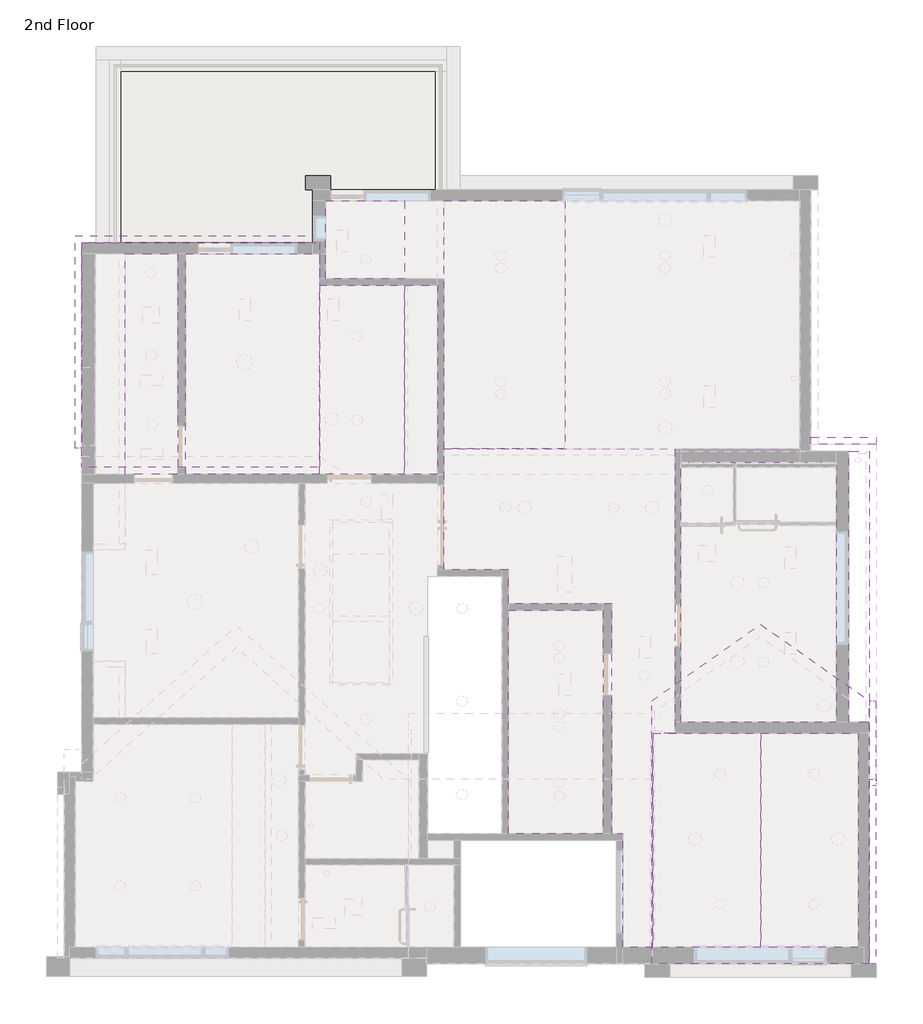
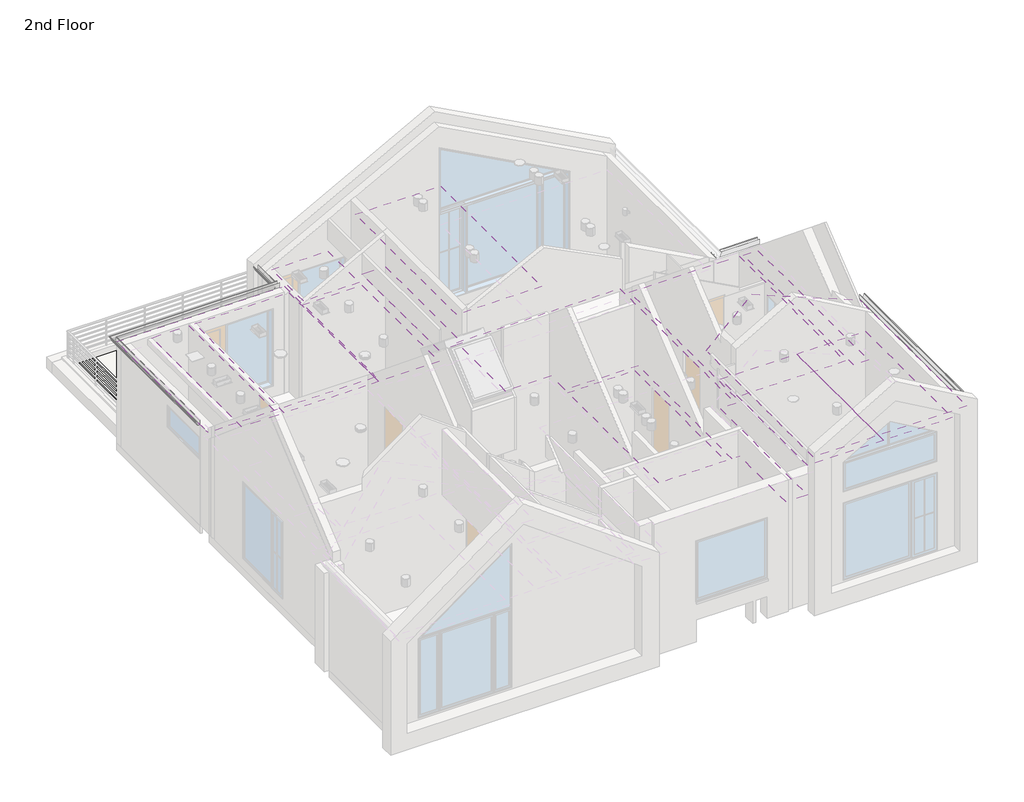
# One storey, part 4 of 6: 12 coverings, 4 pipe segments, 2 roofs, 1 slab.
"""IFC4 building model written with IfcOpenShell, lengths in millimetres."""

from ifc_helpers import new_model, si_unit, point, frame, frame_2d, origin, place, context, project, spatial, polyline, circle_curve, ellipse_curve, trimmed, segment, composite_curve, outline, extrude, faceted_brep, element, save
from ifc_brep_helpers import plane_surface, revolved_surface, advanced_brep

model = new_model("IFC4")

# Units and contexts
model_context = context("Model", 3, world=origin())
ifc_project = project(units=[si_unit("LENGTHUNIT", "METRE", prefix="MILLI")], contexts=[model_context])

# Site, building, storey
site = spatial("IfcSite", under=ifc_project)
building = spatial("IfcBuilding", under=site)
storey = spatial("IfcBuildingStorey", under=building, Name="2nd Floor", Elevation=3048.0)

# Coverings
placement = place(None, origin())
element("IfcCovering", 1, ObjectType="1/2\" Ceiling", at=placement, inside=storey, context=model_context, shape_type="SweptSolid", body=[
    extrude(outline(polyline([(8328.9017773, 12298.6909405), (9294.0049773, 12298.6909405), (9294.0049773, 8234.6909405), (8328.9017773, 8234.6909405), (8328.9017773, 12298.6909405)]), holes=[polyline([(9002.0017773, 8514.0909405), (9002.0017773, 8679.1909405), (8633.7017773, 8679.1909405), (8633.7017773, 8514.0909405), (9002.0017773, 8514.0909405)]), polyline([(9002.0017773, 9885.6909405), (9002.0017773, 10050.7909405), (8633.7017773, 10050.7909405), (8633.7017773, 9885.6909405), (9002.0017773, 9885.6909405)]), composite_curve([segment(trimmed(circle_curve(frame_2d((8824.2017773, 9149.0909405)), 87.3), [point((8911.5017773, 9149.0909405))], [point((8736.9017773, 9149.0909405))], True, "CARTESIAN"), True, "CONTINUOUS"), segment(trimmed(circle_curve(frame_2d((8824.2017773, 9149.0909405)), 87.3), [point((8736.9017773, 9149.0909405))], [point((8911.5017773, 9149.0909405))], True, "CARTESIAN"), True, "CONTINUOUS")], self_intersect=False), composite_curve([segment(trimmed(circle_curve(frame_2d((8805.1517773, 10425.4409405)), 87.3), [point((8892.4517773, 10425.4409405))], [point((8717.8517773, 10425.4409405))], True, "CARTESIAN"), True, "CONTINUOUS"), segment(trimmed(circle_curve(frame_2d((8805.1517773, 10425.4409405)), 87.3), [point((8717.8517773, 10425.4409405))], [point((8892.4517773, 10425.4409405))], True, "CARTESIAN"), True, "CONTINUOUS")], self_intersect=False), composite_curve([segment(trimmed(circle_curve(frame_2d((8798.8017773, 11949.4409405)), 87.3), [point((8886.1017773, 11949.4409405))], [point((8711.5017773, 11949.4409405))], True, "CARTESIAN"), True, "CONTINUOUS"), segment(trimmed(circle_curve(frame_2d((8798.8017773, 11949.4409405)), 87.3), [point((8711.5017773, 11949.4409405))], [point((8886.1017773, 11949.4409405))], True, "CARTESIAN"), True, "CONTINUOUS")], self_intersect=False)]), frame((0.0, 0.0, 5791.2), z_axis=(0.0, 0.0, 1.0), x_axis=(1.0, 0.0, 0.0)), (0.0, 0.0, 1.0), 12.7),
])
element("IfcCovering", 2, ObjectType="1/2\" Ceiling", at=placement, inside=storey, context=model_context, shape_type="SweptSolid", body=[
    extrude(outline(polyline([(9446.4049773, 12298.6909405), (11910.2049773, 12298.6909405), (11910.2049773, 8234.6909405), (9446.4049773, 8234.6909405), (9446.4049773, 12298.6909405)]), holes=[polyline([(10449.8017773, 11454.1409405), (10449.8017773, 11085.8409405), (10614.9017773, 11085.8409405), (10614.9017773, 11454.1409405), (10449.8017773, 11454.1409405)])]), frame((0.0, 0.0, 5791.2), z_axis=(0.0, 0.0, 1.0), x_axis=(1.0, 0.0, 0.0)), (0.0, 0.0, 1.0), 12.7),
])
element("IfcCovering", 3, ObjectType="1/2\" Ceiling", at=placement, inside=storey, context=model_context, shape_type="SweptSolid", body=[
    extrude(outline(polyline([(13485.1017773, 8234.6909405), (13485.1017773, 11720.8409405), (14094.6049773, 11720.8409405), (14094.6049773, 8234.6909405), (13485.1017773, 8234.6909405)])), frame((0.0, 0.0, 6096.0), z_axis=(0.0, 0.0, 1.0), x_axis=(1.0, 0.0, 0.0)), (0.0, 0.0, 1.0), 12.7),
    extrude(outline(polyline([(13485.1017773, 11835.1409405), (13485.1017773, 13276.5909405), (14094.6049773, 13276.5909405), (14094.6049773, 11835.1409405), (13485.1017773, 11835.1409405)])), frame((0.0, 0.0, 6096.0), z_axis=(0.0, 0.0, 1.0), x_axis=(1.0, 0.0, 0.0)), (0.0, 0.0, 1.0), 12.7),
])
element("IfcCovering", 4, ObjectType="1/2\" Ceiling", at=placement, inside=storey, context=model_context, shape_type="AdvancedBrep", body=[
    advanced_brep(
    [(11910.2049773, 11720.8409405, 5804.3666604), (11910.2049773, 8234.6909405, 5804.3666604), (13485.1017773, 8234.6909405, 6235.209671), (13485.1017773, 11720.8409405, 6235.209671), (12605.90485, 10693.7409405, 5994.6886089), (12605.90485, 10868.3409405, 5994.6886089), (12605.90485, 9144.3409405, 5994.6886089), (12605.90485, 9318.9409405, 5994.6886089), (12243.106418, 11085.8409405, 5895.438189), (12078.006418, 11085.8409405, 5850.27194), (12078.006418, 11454.1409405, 5850.27194), (12243.106418, 11454.1409405, 5895.438189), (11910.2049773, 8234.6909405, 5791.2), (11910.2049773, 11720.8409405, 5791.2), (13485.1017773, 11720.8409405, 6222.0430105), (13485.1017773, 8234.6909405, 6222.0430105), (12605.90485, 10868.3409405, 5981.5219484), (12605.90485, 10693.7409405, 5981.5219484), (12605.90485, 9318.9409405, 5981.5219484), (12605.90485, 9144.3409405, 5981.5219484), (12243.106418, 11085.8409405, 5882.2715286), (12243.106418, 11454.1409405, 5882.2715286), (12078.006418, 11454.1409405, 5837.1052796), (12078.006418, 11085.8409405, 5837.1052796)],
    [
        (0, 1),
        (1, 2),
        (2, 3),
        (3, 0),
        (4, 5, ellipse_curve(frame((12605.90485, 10781.0409405, 5994.6886089), z_axis=(0.26387304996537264, 0.0, -0.9645574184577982), x_axis=(0.9645574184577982, 0.0, 0.2638730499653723)), 90.5078312, 87.3)),
        (5, 4, ellipse_curve(frame((12605.90485, 10781.0409405, 5994.6886089), z_axis=(0.26387304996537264, 0.0, -0.9645574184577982), x_axis=(0.9645574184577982, 0.0, 0.2638730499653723)), 90.5078312, 87.3)),
        (6, 7, ellipse_curve(frame((12605.90485, 9231.6409405, 5994.6886089), z_axis=(0.26387304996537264, 0.0, -0.9645574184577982), x_axis=(0.9645574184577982, 0.0, 0.2638730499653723)), 90.5078312, 87.3)),
        (7, 6, ellipse_curve(frame((12605.90485, 9231.6409405, 5994.6886089), z_axis=(0.26387304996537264, 0.0, -0.9645574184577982), x_axis=(0.9645574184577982, 0.0, 0.2638730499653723)), 90.5078312, 87.3)),
        (8, 9),
        (9, 10),
        (10, 11),
        (11, 8),
        (12, 13),
        (13, 14),
        (14, 15),
        (15, 12),
        (16, 17, ellipse_curve(frame((12605.90485, 10781.0409405, 5981.5219484), z_axis=(-0.26387304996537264, 0.0, 0.9645574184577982), x_axis=(0.9645574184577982, 0.0, 0.2638730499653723)), 90.5078312, 87.3)),
        (17, 16, ellipse_curve(frame((12605.90485, 10781.0409405, 5981.5219484), z_axis=(-0.26387304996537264, 0.0, 0.9645574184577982), x_axis=(0.9645574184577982, 0.0, 0.2638730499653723)), 90.5078312, 87.3)),
        (18, 19, ellipse_curve(frame((12605.90485, 9231.6409405, 5981.5219484), z_axis=(-0.26387304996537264, 0.0, 0.9645574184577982), x_axis=(0.9645574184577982, 0.0, 0.2638730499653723)), 90.5078312, 87.3)),
        (19, 18, ellipse_curve(frame((12605.90485, 9231.6409405, 5981.5219484), z_axis=(-0.26387304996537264, 0.0, 0.9645574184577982), x_axis=(0.9645574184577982, 0.0, 0.2638730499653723)), 90.5078312, 87.3)),
        (20, 21),
        (21, 22),
        (22, 23),
        (23, 20),
        (0, 13),
        (12, 1),
        (15, 2),
        (14, 3),
        (16, 5),
        (4, 17),
        (18, 7),
        (6, 19),
        (8, 20),
        (23, 9),
        (22, 10),
        (21, 11),
    ],
    [
        plane_surface(frame((11910.2049773, 11720.8409405, 5804.3666604), z_axis=(-0.26387304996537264, 0.0, 0.9645574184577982), x_axis=(0.9645574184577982, 0.0, 0.26387304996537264))),
        plane_surface(frame((11910.2049773, 11720.8409405, 5791.2), z_axis=(0.26387304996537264, 0.0, -0.9645574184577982), x_axis=(-0.9645574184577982, 0.0, -0.26387304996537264))),
        plane_surface(frame((11910.2049773, 11720.8409405, 5804.3666604), z_axis=(-1.0, 0.0, 0.0), x_axis=(0.0, 0.0, -1.0))),
        plane_surface(frame((11910.2049773, 8234.6909405, 5804.3666604), z_axis=(0.0, -1.0, 0.0), x_axis=(0.0, 0.0, -1.0))),
        plane_surface(frame((13485.1017773, 8234.6909405, 6235.209671), z_axis=(1.0, 0.0, 0.0), x_axis=(0.0, 0.0, -1.0))),
        plane_surface(frame((13485.1017773, 11720.8409405, 6235.209671), z_axis=(0.0, 1.0, 0.0), x_axis=(0.0, 0.0, -1.0))),
        revolved_surface(polyline([(12605.90485, 10868.340940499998, 6018.571186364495), (12605.90485, 10868.340940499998, 5957.639370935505)]), (12605.90485, 10781.0409405, 5930.7219484), (0.0, 0.0, 1.0)),
        revolved_surface(polyline([(12605.90485, 9318.940940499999, 6018.571186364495), (12605.90485, 9318.940940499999, 5957.639370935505)]), (12605.90485, 9231.6409405, 5930.7219484), (0.0, 0.0, 1.0)),
        plane_surface(frame((12243.106418, 11085.8409405, 5895.438189), z_axis=(0.0, 1.0, 0.0), x_axis=(0.0, 0.0, -1.0))),
        plane_surface(frame((12078.006418, 11085.8409405, 5850.27194), z_axis=(1.0, 0.0, 0.0), x_axis=(0.0, 0.0, -1.0))),
        plane_surface(frame((12078.006418, 11454.1409405, 5850.27194), z_axis=(0.0, -1.0, 0.0), x_axis=(0.0, 0.0, -1.0))),
        plane_surface(frame((12243.106418, 11454.1409405, 5895.438189), z_axis=(-1.0, 0.0, 0.0), x_axis=(0.0, 0.0, -1.0))),
    ],
    [
        (0, [[1, 2, 3, 4], [5, 6], [7, 8], [9, 10, 11, 12]]),
        (1, [[13, 14, 15, 16], [17, 18], [19, 20], [21, 22, 23, 24]]),
        (2, [[-1, 25, -13, 26]]),
        (3, [[-2, -26, -16, 27]]),
        (4, [[-3, -27, -15, 28]]),
        (5, [[-4, -28, -14, -25]]),
        (6, [[29, -5, 30, -17]]),
        (6, [[-29, -18, -30, -6]]),
        (7, [[31, -7, 32, -19]]),
        (7, [[-31, -20, -32, -8]]),
        (8, [[-9, 33, -24, 34]]),
        (9, [[-10, -34, -23, 35]]),
        (10, [[-11, -35, -22, 36]]),
        (11, [[-12, -36, -21, -33]]),
    ],
),
])
element("IfcCovering", 5, ObjectType="1/2\" Ceiling", at=placement, inside=storey, context=model_context, shape_type="AdvancedBrep", body=[
    advanced_brep(
    [(12024.5049773, 13276.5909405, 5804.4454512), (12024.5049773, 11835.1409405, 5804.4454512), (13485.1017773, 11835.1409405, 6237.0939341), (13485.1017773, 13276.5909405, 6237.0939341), (12763.1008039, 12109.7909405, 6023.2275023), (12763.1008039, 12284.3909405, 6023.2275023), (12411.0253535, 12355.8409405, 5918.9380027), (12245.9253535, 12355.8409405, 5870.0331547), (12245.9253535, 12724.1409405, 5870.0331547), (12411.0253535, 12724.1409405, 5918.9380027), (12024.5049773, 11835.1409405, 5791.2), (12024.5049773, 13276.5909405, 5791.2), (13485.1017773, 13276.5909405, 6223.8484829), (13485.1017773, 11835.1409405, 6223.8484829), (12763.1008039, 12284.3909405, 6009.9820511), (12763.1008039, 12109.7909405, 6009.9820511), (12411.0253535, 12355.8409405, 5905.6925515), (12411.0253535, 12724.1409405, 5905.6925515), (12245.9253535, 12724.1409405, 5856.7877035), (12245.9253535, 12355.8409405, 5856.7877035)],
    [
        (0, 1),
        (1, 2),
        (2, 3),
        (3, 0),
        (4, 5, ellipse_curve(frame((12763.1008039, 12197.0909405, 6023.2275023), z_axis=(0.28401534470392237, 0.0, -0.9588197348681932), x_axis=(0.958819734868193, 0.0, 0.28401534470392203)), 91.0494401, 87.3)),
        (5, 4, ellipse_curve(frame((12763.1008039, 12197.0909405, 6023.2275023), z_axis=(0.28401534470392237, 0.0, -0.9588197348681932), x_axis=(0.958819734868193, 0.0, 0.28401534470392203)), 91.0494401, 87.3)),
        (6, 7),
        (7, 8),
        (8, 9),
        (9, 6),
        (10, 11),
        (11, 12),
        (12, 13),
        (13, 10),
        (14, 15, ellipse_curve(frame((12763.1008039, 12197.0909405, 6009.9820511), z_axis=(-0.28401534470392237, 0.0, 0.9588197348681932), x_axis=(0.958819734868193, 0.0, 0.28401534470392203)), 91.0494401, 87.3)),
        (15, 14, ellipse_curve(frame((12763.1008039, 12197.0909405, 6009.9820511), z_axis=(-0.28401534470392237, 0.0, 0.9588197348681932), x_axis=(0.958819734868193, 0.0, 0.28401534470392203)), 91.0494401, 87.3)),
        (16, 17),
        (17, 18),
        (18, 19),
        (19, 16),
        (0, 11),
        (10, 1),
        (13, 2),
        (12, 3),
        (14, 5),
        (4, 15),
        (6, 16),
        (19, 7),
        (18, 8),
        (17, 9),
    ],
    [
        plane_surface(frame((12024.5049773, 13276.5909405, 5804.4454512), z_axis=(-0.28401534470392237, 0.0, 0.9588197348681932), x_axis=(0.9588197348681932, 0.0, 0.28401534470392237))),
        plane_surface(frame((12024.5049773, 13276.5909405, 5791.2), z_axis=(0.28401534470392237, 0.0, -0.9588197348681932), x_axis=(-0.9588197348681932, 0.0, -0.28401534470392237))),
        plane_surface(frame((12024.5049773, 13276.5909405, 5804.4454512), z_axis=(-1.0, 0.0, 0.0), x_axis=(0.0, 0.0, -1.0))),
        plane_surface(frame((12024.5049773, 11835.1409405, 5804.4454512), z_axis=(0.0, -1.0, 0.0), x_axis=(0.0, 0.0, -1.0))),
        plane_surface(frame((13485.1017773, 11835.1409405, 6237.0939341), z_axis=(1.0, 0.0, 0.0), x_axis=(0.0, 0.0, -1.0))),
        plane_surface(frame((13485.1017773, 13276.5909405, 6237.0939341), z_axis=(0.0, 1.0, 0.0), x_axis=(0.0, 0.0, -1.0))),
        revolved_surface(polyline([(12763.1008039, 12284.3909405, 6049.086940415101), (12763.1008039, 12284.3909405, 5984.122612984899)]), (12763.1008039, 12197.0909405, 5959.1820511), (0.0, 0.0, 1.0)),
        plane_surface(frame((12411.0253535, 12355.8409405, 5918.9380027), z_axis=(0.0, 1.0, 0.0), x_axis=(0.0, 0.0, -1.0))),
        plane_surface(frame((12245.9253535, 12355.8409405, 5870.0331547), z_axis=(1.0, 0.0, 0.0), x_axis=(0.0, 0.0, -1.0))),
        plane_surface(frame((12245.9253535, 12724.1409405, 5870.0331547), z_axis=(0.0, -1.0, 0.0), x_axis=(0.0, 0.0, -1.0))),
        plane_surface(frame((12411.0253535, 12724.1409405, 5918.9380027), z_axis=(-1.0, 0.0, 0.0), x_axis=(0.0, 0.0, -1.0))),
    ],
    [
        (0, [[1, 2, 3, 4], [5, 6], [7, 8, 9, 10]]),
        (1, [[11, 12, 13, 14], [15, 16], [17, 18, 19, 20]]),
        (2, [[-1, 21, -11, 22]]),
        (3, [[-2, -22, -14, 23]]),
        (4, [[-3, -23, -13, 24]]),
        (5, [[-4, -24, -12, -21]]),
        (6, [[25, -5, 26, -15]]),
        (6, [[-25, -16, -26, -6]]),
        (7, [[-7, 27, -20, 28]]),
        (8, [[-8, -28, -19, 29]]),
        (9, [[-9, -29, -18, 30]]),
        (10, [[-10, -30, -17, -27]]),
    ],
),
])
element("IfcCovering", 6, ObjectType="1/2\" Ceiling", at=placement, inside=storey, context=model_context, shape_type="AdvancedBrep", body=[
    advanced_brep(
    [(14208.9049773, 13276.5909405, 6567.4535432), (14208.9049773, 8698.2409405, 6567.4535432), (16437.8517773, 8698.2409405, 7703.1586634), (16437.8517773, 13276.5909405, 7703.1586634), (15263.3150742, 12173.2909405, 7104.7023218), (15263.3150742, 12347.8909405, 7104.7023218), (15263.3150742, 9626.9409405, 7104.7023218), (15263.3150742, 9801.5409405, 7104.7023218), (15263.3150742, 9849.1909405, 7104.7023218), (15263.3150742, 10023.7909405, 7104.7023218), (15263.3150742, 11951.0409405, 7104.7023218), (15263.3150742, 12125.6409405, 7104.7023218), (14208.9049773, 8698.2409405, 6553.2), (14208.9049773, 13276.5909405, 6553.2), (16437.8517773, 13276.5909405, 7688.9051202), (16437.8517773, 8698.2409405, 7688.9051202), (15263.3150742, 12347.8909405, 7090.4487786), (15263.3150742, 12173.2909405, 7090.4487786), (15263.3150742, 9801.5409405, 7090.4487786), (15263.3150742, 9626.9409405, 7090.4487786), (15263.3150742, 10023.7909405, 7090.4487786), (15263.3150742, 9849.1909405, 7090.4487786), (15263.3150742, 12125.6409405, 7090.4487786), (15263.3150742, 11951.0409405, 7090.4487786)],
    [
        (0, 1),
        (1, 2),
        (2, 3),
        (3, 0),
        (4, 5, ellipse_curve(frame((15263.3150742, 12260.5909405, 7104.7023218), z_axis=(0.45399049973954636, 0.0, -0.8910065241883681), x_axis=(0.8910065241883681, 0.0, 0.45399049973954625)), 97.9790805, 87.3)),
        (5, 4, ellipse_curve(frame((15263.3150742, 12260.5909405, 7104.7023218), z_axis=(0.45399049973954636, 0.0, -0.8910065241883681), x_axis=(0.8910065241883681, 0.0, 0.45399049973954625)), 97.9790805, 87.3)),
        (6, 7, ellipse_curve(frame((15263.3150742, 9714.2409405, 7104.7023218), z_axis=(0.45399049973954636, 0.0, -0.8910065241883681), x_axis=(0.8910065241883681, 0.0, 0.45399049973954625)), 97.9790805, 87.3)),
        (7, 6, ellipse_curve(frame((15263.3150742, 9714.2409405, 7104.7023218), z_axis=(0.45399049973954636, 0.0, -0.8910065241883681), x_axis=(0.8910065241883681, 0.0, 0.45399049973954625)), 97.9790805, 87.3)),
        (8, 9, ellipse_curve(frame((15263.3150742, 9936.4909405, 7104.7023218), z_axis=(0.45399049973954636, 0.0, -0.8910065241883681), x_axis=(0.8910065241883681, 0.0, 0.45399049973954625)), 97.9790805, 87.3)),
        (9, 8, ellipse_curve(frame((15263.3150742, 9936.4909405, 7104.7023218), z_axis=(0.45399049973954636, 0.0, -0.8910065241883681), x_axis=(0.8910065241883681, 0.0, 0.45399049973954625)), 97.9790805, 87.3)),
        (10, 11, ellipse_curve(frame((15263.3150742, 12038.3409405, 7104.7023218), z_axis=(0.45399049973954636, 0.0, -0.8910065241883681), x_axis=(0.8910065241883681, 0.0, 0.45399049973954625)), 97.9790805, 87.3)),
        (11, 10, ellipse_curve(frame((15263.3150742, 12038.3409405, 7104.7023218), z_axis=(0.45399049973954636, 0.0, -0.8910065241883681), x_axis=(0.8910065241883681, 0.0, 0.45399049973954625)), 97.9790805, 87.3)),
        (12, 13),
        (13, 14),
        (14, 15),
        (15, 12),
        (16, 17, ellipse_curve(frame((15263.3150742, 12260.5909405, 7090.4487786), z_axis=(-0.45399049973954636, 0.0, 0.8910065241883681), x_axis=(0.8910065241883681, 0.0, 0.45399049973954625)), 97.9790805, 87.3)),
        (17, 16, ellipse_curve(frame((15263.3150742, 12260.5909405, 7090.4487786), z_axis=(-0.45399049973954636, 0.0, 0.8910065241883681), x_axis=(0.8910065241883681, 0.0, 0.45399049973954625)), 97.9790805, 87.3)),
        (18, 19, ellipse_curve(frame((15263.3150742, 9714.2409405, 7090.4487786), z_axis=(-0.45399049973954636, 0.0, 0.8910065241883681), x_axis=(0.8910065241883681, 0.0, 0.45399049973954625)), 97.9790805, 87.3)),
        (19, 18, ellipse_curve(frame((15263.3150742, 9714.2409405, 7090.4487786), z_axis=(-0.45399049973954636, 0.0, 0.8910065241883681), x_axis=(0.8910065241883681, 0.0, 0.45399049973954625)), 97.9790805, 87.3)),
        (20, 21, ellipse_curve(frame((15263.3150742, 9936.4909405, 7090.4487786), z_axis=(-0.45399049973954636, 0.0, 0.8910065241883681), x_axis=(0.8910065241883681, 0.0, 0.45399049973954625)), 97.9790805, 87.3)),
        (21, 20, ellipse_curve(frame((15263.3150742, 9936.4909405, 7090.4487786), z_axis=(-0.45399049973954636, 0.0, 0.8910065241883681), x_axis=(0.8910065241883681, 0.0, 0.45399049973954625)), 97.9790805, 87.3)),
        (22, 23, ellipse_curve(frame((15263.3150742, 12038.3409405, 7090.4487786), z_axis=(-0.45399049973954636, 0.0, 0.8910065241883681), x_axis=(0.8910065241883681, 0.0, 0.45399049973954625)), 97.9790805, 87.3)),
        (23, 22, ellipse_curve(frame((15263.3150742, 12038.3409405, 7090.4487786), z_axis=(-0.45399049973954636, 0.0, 0.8910065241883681), x_axis=(0.8910065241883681, 0.0, 0.45399049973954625)), 97.9790805, 87.3)),
        (0, 13),
        (12, 1),
        (15, 2),
        (14, 3),
        (16, 5),
        (4, 17),
        (6, 19),
        (18, 7),
        (8, 21),
        (20, 9),
        (22, 11),
        (10, 23),
    ],
    [
        plane_surface(frame((14208.9049773, 13276.5909405, 6567.4535432), z_axis=(-0.45399049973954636, 0.0, 0.8910065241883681), x_axis=(0.8910065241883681, 0.0, 0.45399049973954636))),
        plane_surface(frame((14208.9049773, 13276.5909405, 6553.2), z_axis=(0.45399049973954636, 0.0, -0.8910065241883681), x_axis=(-0.8910065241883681, 0.0, -0.45399049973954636))),
        plane_surface(frame((14208.9049773, 13276.5909405, 6567.4535432), z_axis=(-1.0, 0.0, 0.0), x_axis=(0.0, 0.0, -1.0))),
        plane_surface(frame((14208.9049773, 8698.2409405, 6567.4535432), z_axis=(0.0, -1.0, 0.0), x_axis=(0.0, 0.0, -1.0))),
        plane_surface(frame((16437.8517773, 8698.2409405, 7703.1586634), z_axis=(1.0, 0.0, 0.0), x_axis=(0.0, 0.0, -1.0))),
        plane_surface(frame((16437.8517773, 13276.5909405, 7703.1586634), z_axis=(0.0, 1.0, 0.0), x_axis=(0.0, 0.0, -1.0))),
        revolved_surface(polyline([(15263.3150742, 12347.8909405, 7149.183893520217), (15263.3150742, 12347.8909405, 7045.967206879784)]), (15263.3150742, 12260.5909405, 7039.6487786), (0.0, 0.0, 1.0)),
        revolved_surface(polyline([(15263.3150742, 9626.9409405, 7149.183893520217), (15263.3150742, 9626.9409405, 7045.967206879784)]), (15263.3150742, 9714.2409405, 7039.6487786), (0.0, 0.0, 1.0)),
        revolved_surface(polyline([(15263.3150742, 9849.1909405, 7149.183893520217), (15263.3150742, 9849.1909405, 7045.967206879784)]), (15263.3150742, 9936.4909405, 7039.6487786), (0.0, 0.0, 1.0)),
        revolved_surface(polyline([(15263.3150742, 12125.6409405, 7149.183893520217), (15263.3150742, 12125.6409405, 7045.967206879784)]), (15263.3150742, 12038.3409405, 7039.6487786), (0.0, 0.0, 1.0)),
    ],
    [
        (0, [[1, 2, 3, 4], [5, 6], [7, 8], [9, 10], [11, 12]]),
        (1, [[13, 14, 15, 16], [17, 18], [19, 20], [21, 22], [23, 24]]),
        (2, [[-1, 25, -13, 26]]),
        (3, [[-2, -26, -16, 27]]),
        (4, [[-3, -27, -15, 28]]),
        (5, [[-4, -28, -14, -25]]),
        (6, [[29, -5, 30, -17]]),
        (6, [[-29, -18, -30, -6]]),
        (7, [[31, -19, 32, -7]]),
        (7, [[-31, -8, -32, -20]]),
        (8, [[33, -21, 34, -9]]),
        (8, [[-33, -10, -34, -22]]),
        (9, [[35, -11, 36, -23]]),
        (9, [[-35, -24, -36, -12]]),
    ],
),
])
element("IfcCovering", 7, ObjectType="1/2\" Ceiling", at=placement, inside=storey, context=model_context, shape_type="SweptSolid", body=[
    extrude(outline(polyline([(14208.9049773, 6469.3909405), (14208.9049773, 8698.2409405), (18469.7549773, 8698.2409405), (18469.7549773, 3453.1409405), (18069.8017773, 3453.1409405), (18069.8017773, -490.2090595), (17511.0017773, -490.2090595), (17511.0017773, 1598.9409405), (17307.7049773, 1598.9409405), (17307.7049773, 5840.7409405), (15396.3549773, 5840.7409405), (15396.3549773, 6469.3909405), (14208.9049773, 6469.3909405)]), holes=[composite_curve([segment(trimmed(circle_curve(frame_2d((15339.3017773, 7625.0909405)), 87.3), [point((15426.6017773, 7625.0909405))], [point((15252.0017773, 7625.0909405))], True, "CARTESIAN"), True, "CONTINUOUS"), segment(trimmed(circle_curve(frame_2d((15339.3017773, 7625.0909405)), 87.3), [point((15252.0017773, 7625.0909405))], [point((15426.6017773, 7625.0909405))], True, "CARTESIAN"), True, "CONTINUOUS")], self_intersect=False), composite_curve([segment(trimmed(circle_curve(frame_2d((17345.9017773, 7625.0909405)), 87.3), [point((17433.2017773, 7625.0909405))], [point((17258.6017773, 7625.0909405))], True, "CARTESIAN"), True, "CONTINUOUS"), segment(trimmed(circle_curve(frame_2d((17345.9017773, 7625.0909405)), 87.3), [point((17258.6017773, 7625.0909405))], [point((17433.2017773, 7625.0909405))], True, "CARTESIAN"), True, "CONTINUOUS")], self_intersect=False), polyline([(16336.2517773, 6697.9909405), (16336.2517773, 6075.6909405), (16552.1517773, 6075.6909405), (16552.1517773, 6697.9909405), (16336.2517773, 6697.9909405)]), polyline([(17834.7549773, 4855.3275854), (17999.8549773, 4855.3275854), (17999.8549773, 5223.6275854), (17834.7549773, 5223.6275854), (17834.7549773, 4855.3275854)]), composite_curve([segment(trimmed(circle_curve(frame_2d((17911.0517773, 4526.2909405)), 87.3), [point((17998.3517773, 4526.2909405))], [point((17823.7517773, 4526.2909405))], True, "CARTESIAN"), True, "CONTINUOUS"), segment(trimmed(circle_curve(frame_2d((17911.0517773, 4526.2909405)), 87.3), [point((17823.7517773, 4526.2909405))], [point((17998.3517773, 4526.2909405))], True, "CARTESIAN"), True, "CONTINUOUS")], self_intersect=False)]), frame((0.0, 0.0, 5791.2), z_axis=(0.0, 0.0, 1.0), x_axis=(1.0, 0.0, 0.0)), (0.0, 0.0, 1.0), 12.7),
])
element("IfcCovering", 8, ObjectType="1/2\" Ceiling", at=placement, inside=storey, context=model_context, shape_type="AdvancedBrep", body=[
    advanced_brep(
    [(18069.8017773, 3453.1409405, 6617.9789606), (18069.8017773, -490.2090595, 6617.9789606), (20059.3700438, -490.2090595, 7533.0781201), (20059.3700438, 3453.1409405, 7533.0781201), (19300.142258, 2616.5409405, 7183.872355), (19300.142258, 2791.1409405, 7183.872355), (19300.142258, 216.2409405, 7183.872355), (19300.142258, 390.8409405, 7183.872355), (18069.8017773, -490.2090595, 6604.0), (18069.8017773, 3453.1409405, 6604.0), (20059.3700438, 3453.1409405, 7519.0991595), (20059.3700438, -490.2090595, 7519.0991595), (19300.142258, 2791.1409405, 7169.8933944), (19300.142258, 2616.5409405, 7169.8933944), (19300.142258, 390.8409405, 7169.8933944), (19300.142258, 216.2409405, 7169.8933944)],
    [
        (0, 1),
        (1, 2),
        (2, 3),
        (3, 0),
        (4, 5, ellipse_curve(frame((19300.142258, 2703.8409405, 7183.872355), z_axis=(0.41786707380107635, 0.0, -0.908508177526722), x_axis=(0.9085081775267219, 0.0, 0.4178670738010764)), 96.0915952, 87.3)),
        (5, 4, ellipse_curve(frame((19300.142258, 2703.8409405, 7183.872355), z_axis=(0.41786707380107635, 0.0, -0.908508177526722), x_axis=(0.9085081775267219, 0.0, 0.4178670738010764)), 96.0915952, 87.3)),
        (6, 7, ellipse_curve(frame((19300.142258, 303.5409405, 7183.872355), z_axis=(0.41786707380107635, 0.0, -0.908508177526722), x_axis=(0.9085081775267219, 0.0, 0.4178670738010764)), 96.0915952, 87.3)),
        (7, 6, ellipse_curve(frame((19300.142258, 303.5409405, 7183.872355), z_axis=(0.41786707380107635, 0.0, -0.908508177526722), x_axis=(0.9085081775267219, 0.0, 0.4178670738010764)), 96.0915952, 87.3)),
        (8, 9),
        (9, 10),
        (10, 11),
        (11, 8),
        (12, 13, ellipse_curve(frame((19300.142258, 2703.8409405, 7169.8933944), z_axis=(-0.41786707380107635, 0.0, 0.908508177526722), x_axis=(0.9085081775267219, 0.0, 0.4178670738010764)), 96.0915952, 87.3)),
        (13, 12, ellipse_curve(frame((19300.142258, 2703.8409405, 7169.8933944), z_axis=(-0.41786707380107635, 0.0, 0.908508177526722), x_axis=(0.9085081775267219, 0.0, 0.4178670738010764)), 96.0915952, 87.3)),
        (14, 15, ellipse_curve(frame((19300.142258, 303.5409405, 7169.8933944), z_axis=(-0.41786707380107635, 0.0, 0.908508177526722), x_axis=(0.9085081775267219, 0.0, 0.4178670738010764)), 96.0915952, 87.3)),
        (15, 14, ellipse_curve(frame((19300.142258, 303.5409405, 7169.8933944), z_axis=(-0.41786707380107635, 0.0, 0.908508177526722), x_axis=(0.9085081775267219, 0.0, 0.4178670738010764)), 96.0915952, 87.3)),
        (0, 9),
        (8, 1),
        (11, 2),
        (10, 3),
        (12, 5),
        (4, 13),
        (6, 15),
        (14, 7),
    ],
    [
        plane_surface(frame((18069.8017773, 3453.1409405, 6617.9789606), z_axis=(-0.41786707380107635, 0.0, 0.908508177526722), x_axis=(0.908508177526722, 0.0, 0.41786707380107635))),
        plane_surface(frame((18069.8017773, 3453.1409405, 6604.0), z_axis=(0.41786707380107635, 0.0, -0.908508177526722), x_axis=(-0.908508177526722, 0.0, -0.41786707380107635))),
        plane_surface(frame((18069.8017773, 3453.1409405, 6617.9789606), z_axis=(-1.0, 0.0, 0.0), x_axis=(0.0, 0.0, -1.0))),
        plane_surface(frame((18069.8017773, -490.2090595, 6617.9789606), z_axis=(0.0, -1.0, 0.0), x_axis=(0.0, 0.0, -1.0))),
        plane_surface(frame((20059.3700438, -490.2090595, 7533.0781201), z_axis=(1.0, 0.0, 0.0), x_axis=(0.0, 0.0, -1.0))),
        plane_surface(frame((20059.3700438, 3453.1409405, 7533.0781201), z_axis=(0.0, 1.0, 0.0), x_axis=(0.0, 0.0, -1.0))),
        revolved_surface(polyline([(19300.142258, 2791.1409405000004, 7224.025868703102), (19300.142258, 2791.1409405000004, 7129.739880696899)]), (19300.142258, 2703.8409405, 7119.0933944), (0.0, 0.0, 1.0)),
        revolved_surface(polyline([(19300.142258, 216.24094049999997, 7224.025868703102), (19300.142258, 216.24094049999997, 7129.739880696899)]), (19300.142258, 303.5409405, 7119.0933944), (0.0, 0.0, 1.0)),
    ],
    [
        (0, [[1, 2, 3, 4], [5, 6], [7, 8]]),
        (1, [[9, 10, 11, 12], [13, 14], [15, 16]]),
        (2, [[-1, 17, -9, 18]]),
        (3, [[-2, -18, -12, 19]]),
        (4, [[-3, -19, -11, 20]]),
        (5, [[-4, -20, -10, -17]]),
        (6, [[21, -5, 22, -13]]),
        (6, [[-21, -14, -22, -6]]),
        (7, [[23, -15, 24, -7]]),
        (7, [[-23, -8, -24, -16]]),
    ],
),
])
element("IfcCovering", 9, ObjectType="1/2\" Ceiling", at=placement, inside=storey, context=model_context, shape_type="AdvancedBrep", body=[
    advanced_brep(
    [(20059.3700438, 3453.1409405, 7532.8678941), (20059.3700438, -490.2090595, 7532.8678941), (21854.4017773, -490.2090595, 6618.2535432), (21854.4017773, 3453.1409405, 6618.2535432), (21030.4612967, 2791.1409405, 7038.072187), (21030.4612967, 2616.5409405, 7038.072187), (21030.4612967, 390.8409405, 7038.072187), (21030.4612967, 216.2409405, 7038.072187), (20059.3700438, -490.2090595, 7518.6143509), (20059.3700438, 3453.1409405, 7518.6143509), (21854.4017773, 3453.1409405, 6604.0), (21854.4017773, -490.2090595, 6604.0), (21030.4612967, 2616.5409405, 7023.8186438), (21030.4612967, 2791.1409405, 7023.8186438), (21030.4612967, 216.2409405, 7023.8186438), (21030.4612967, 390.8409405, 7023.8186438)],
    [
        (0, 1),
        (1, 2),
        (2, 3),
        (3, 0),
        (4, 5, ellipse_curve(frame((21030.4612967, 2703.8409405, 7038.072187), z_axis=(-0.45399049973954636, 0.0, -0.8910065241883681), x_axis=(-0.8910065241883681, 0.0, 0.45399049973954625)), 97.9790805, 87.3)),
        (5, 4, ellipse_curve(frame((21030.4612967, 2703.8409405, 7038.072187), z_axis=(-0.45399049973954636, 0.0, -0.8910065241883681), x_axis=(-0.8910065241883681, 0.0, 0.45399049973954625)), 97.9790805, 87.3)),
        (6, 7, ellipse_curve(frame((21030.4612967, 303.5409405, 7038.072187), z_axis=(-0.45399049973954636, 0.0, -0.8910065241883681), x_axis=(-0.8910065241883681, 0.0, 0.45399049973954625)), 97.9790805, 87.3)),
        (7, 6, ellipse_curve(frame((21030.4612967, 303.5409405, 7038.072187), z_axis=(-0.45399049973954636, 0.0, -0.8910065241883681), x_axis=(-0.8910065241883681, 0.0, 0.45399049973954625)), 97.9790805, 87.3)),
        (8, 9),
        (9, 10),
        (10, 11),
        (11, 8),
        (12, 13, ellipse_curve(frame((21030.4612967, 2703.8409405, 7023.8186438), z_axis=(0.45399049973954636, 0.0, 0.8910065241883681), x_axis=(-0.8910065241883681, 0.0, 0.45399049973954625)), 97.9790805, 87.3)),
        (13, 12, ellipse_curve(frame((21030.4612967, 2703.8409405, 7023.8186438), z_axis=(0.45399049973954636, 0.0, 0.8910065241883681), x_axis=(-0.8910065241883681, 0.0, 0.45399049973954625)), 97.9790805, 87.3)),
        (14, 15, ellipse_curve(frame((21030.4612967, 303.5409405, 7023.8186438), z_axis=(0.45399049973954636, 0.0, 0.8910065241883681), x_axis=(-0.8910065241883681, 0.0, 0.45399049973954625)), 97.9790805, 87.3)),
        (15, 14, ellipse_curve(frame((21030.4612967, 303.5409405, 7023.8186438), z_axis=(0.45399049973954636, 0.0, 0.8910065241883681), x_axis=(-0.8910065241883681, 0.0, 0.45399049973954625)), 97.9790805, 87.3)),
        (0, 9),
        (8, 1),
        (11, 2),
        (10, 3),
        (4, 13),
        (12, 5),
        (14, 7),
        (6, 15),
    ],
    [
        plane_surface(frame((21854.4017773, -490.2090595, 6618.2535432), z_axis=(0.45399049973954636, 0.0, 0.8910065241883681), x_axis=(-0.8910065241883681, 0.0, 0.45399049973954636))),
        plane_surface(frame((21854.4017773, -490.2090595, 6604.0), z_axis=(-0.45399049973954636, 0.0, -0.8910065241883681), x_axis=(0.8910065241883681, 0.0, -0.45399049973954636))),
        plane_surface(frame((20059.3700438, 3453.1409405, 7532.8678941), z_axis=(-1.0, 0.0, 0.0), x_axis=(0.0, 0.0, -1.0))),
        plane_surface(frame((20059.3700438, -490.2090595, 7532.8678941), z_axis=(0.0, -1.0, 0.0), x_axis=(0.0, 0.0, -1.0))),
        plane_surface(frame((21854.4017773, -490.2090595, 6618.2535432), z_axis=(1.0, 0.0, 0.0), x_axis=(0.0, 0.0, -1.0))),
        plane_surface(frame((21854.4017773, 3453.1409405, 6618.2535432), z_axis=(0.0, 1.0, 0.0), x_axis=(0.0, 0.0, -1.0))),
        revolved_surface(polyline([(21030.4612967, 2791.1409405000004, 7082.553758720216), (21030.4612967, 2791.1409405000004, 6979.337072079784)]), (21030.4612967, 2703.8409405, 6973.0186438), (0.0, 0.0, 1.0)),
        revolved_surface(polyline([(21030.4612967, 216.24094049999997, 7082.553758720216), (21030.4612967, 216.24094049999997, 6979.337072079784)]), (21030.4612967, 303.5409405, 6973.0186438), (0.0, 0.0, 1.0)),
    ],
    [
        (0, [[1, 2, 3, 4], [5, 6], [7, 8]]),
        (1, [[9, 10, 11, 12], [13, 14], [15, 16]]),
        (2, [[-1, 17, -9, 18]]),
        (3, [[-2, -18, -12, 19]]),
        (4, [[-3, -19, -11, 20]]),
        (5, [[-4, -20, -10, -17]]),
        (6, [[21, -13, 22, -5]]),
        (6, [[-21, -6, -22, -14]]),
        (7, [[23, -7, 24, -15]]),
        (7, [[-23, -16, -24, -8]]),
    ],
),
])
element("IfcCovering", 10, ObjectType="1/2\" Ceiling", at=placement, inside=storey, context=model_context, shape_type="SweptSolid", body=[
    extrude(outline(polyline([(15396.3549773, 5726.4409405), (17142.6049773, 5726.4409405), (17142.6049773, 1598.9409405), (15396.3549773, 1598.9409405), (15396.3549773, 5726.4409405)]), holes=[composite_curve([segment(trimmed(circle_curve(frame_2d((16336.2517773, 5072.3909405)), 87.3), [point((16423.5517773, 5072.3909405))], [point((16248.9517773, 5072.3909405))], True, "CARTESIAN"), True, "CONTINUOUS"), segment(trimmed(circle_curve(frame_2d((16336.2517773, 5072.3909405)), 87.3), [point((16248.9517773, 5072.3909405))], [point((16423.5517773, 5072.3909405))], True, "CARTESIAN"), True, "CONTINUOUS")], self_intersect=False), composite_curve([segment(trimmed(circle_curve(frame_2d((16336.2517773, 4843.7909405)), 87.3), [point((16423.5517773, 4843.7909405))], [point((16248.9517773, 4843.7909405))], True, "CARTESIAN"), True, "CONTINUOUS"), segment(trimmed(circle_curve(frame_2d((16336.2517773, 4843.7909405)), 87.3), [point((16248.9517773, 4843.7909405))], [point((16423.5517773, 4843.7909405))], True, "CARTESIAN"), True, "CONTINUOUS")], self_intersect=False), composite_curve([segment(trimmed(circle_curve(frame_2d((16336.2517773, 3802.3909405)), 87.3), [point((16423.5517773, 3802.3909405))], [point((16248.9517773, 3802.3909405))], True, "CARTESIAN"), True, "CONTINUOUS"), segment(trimmed(circle_curve(frame_2d((16336.2517773, 3802.3909405)), 87.3), [point((16248.9517773, 3802.3909405))], [point((16423.5517773, 3802.3909405))], True, "CARTESIAN"), True, "CONTINUOUS")], self_intersect=False), composite_curve([segment(trimmed(circle_curve(frame_2d((16336.2517773, 3573.7909405)), 87.3), [point((16423.5517773, 3573.7909405))], [point((16248.9517773, 3573.7909405))], True, "CARTESIAN"), True, "CONTINUOUS"), segment(trimmed(circle_curve(frame_2d((16336.2517773, 3573.7909405)), 87.3), [point((16248.9517773, 3573.7909405))], [point((16423.5517773, 3573.7909405))], True, "CARTESIAN"), True, "CONTINUOUS")], self_intersect=False), composite_curve([segment(trimmed(circle_curve(frame_2d((16336.2517773, 2532.3909405)), 87.3), [point((16423.5517773, 2532.3909405))], [point((16248.9517773, 2532.3909405))], True, "CARTESIAN"), True, "CONTINUOUS"), segment(trimmed(circle_curve(frame_2d((16336.2517773, 2532.3909405)), 87.3), [point((16248.9517773, 2532.3909405))], [point((16423.5517773, 2532.3909405))], True, "CARTESIAN"), True, "CONTINUOUS")], self_intersect=False), composite_curve([segment(trimmed(circle_curve(frame_2d((16336.2517773, 2303.7909405)), 87.3), [point((16423.5517773, 2303.7909405))], [point((16248.9517773, 2303.7909405))], True, "CARTESIAN"), True, "CONTINUOUS"), segment(trimmed(circle_curve(frame_2d((16336.2517773, 2303.7909405)), 87.3), [point((16248.9517773, 2303.7909405))], [point((16423.5517773, 2303.7909405))], True, "CARTESIAN"), True, "CONTINUOUS")], self_intersect=False), polyline([(16355.3017773, 4164.3409405), (16520.4017773, 4164.3409405), (16520.4017773, 4532.6409405), (16355.3017773, 4532.6409405), (16355.3017773, 4164.3409405)])]), frame((0.0, 0.0, 5791.2), z_axis=(0.0, 0.0, 1.0), x_axis=(1.0, 0.0, 0.0)), (0.0, 0.0, 1.0), 12.7),
])
element("IfcCovering", 11, ObjectType="1/2\" Ceiling", at=placement, inside=storey, context=model_context, shape_type="SweptSolid", body=[
    extrude(outline(polyline([(18584.0549773, 8456.9409405), (20882.8517773, 8456.9409405), (21447.9049773, 8456.9409405), (21447.9049773, 3656.3409405), (18584.0549773, 3656.3409405), (18584.0549773, 8456.9409405)]), holes=[composite_curve([segment(trimmed(circle_curve(frame_2d((20108.1517773, 4767.5909405)), 87.3), [point((20195.4517773, 4767.5909405))], [point((20020.8517773, 4767.5909405))], True, "CARTESIAN"), True, "CONTINUOUS"), segment(trimmed(circle_curve(frame_2d((20108.1517773, 4767.5909405)), 87.3), [point((20020.8517773, 4767.5909405))], [point((20195.4517773, 4767.5909405))], True, "CARTESIAN"), True, "CONTINUOUS")], self_intersect=False), composite_curve([segment(trimmed(circle_curve(frame_2d((20108.1517773, 6234.4409405)), 87.3), [point((20195.4517773, 6234.4409405))], [point((20020.8517773, 6234.4409405))], True, "CARTESIAN"), True, "CONTINUOUS"), segment(trimmed(circle_curve(frame_2d((20108.1517773, 6234.4409405)), 87.3), [point((20020.8517773, 6234.4409405))], [point((20195.4517773, 6234.4409405))], True, "CARTESIAN"), True, "CONTINUOUS")], self_intersect=False), composite_curve([segment(trimmed(circle_curve(frame_2d((19066.7517773, 7936.2409405)), 87.3), [point((19154.0517773, 7936.2409405))], [point((18979.4517773, 7936.2409405))], True, "CARTESIAN"), True, "CONTINUOUS"), segment(trimmed(circle_curve(frame_2d((19066.7517773, 7936.2409405)), 87.3), [point((18979.4517773, 7936.2409405))], [point((19154.0517773, 7936.2409405))], True, "CARTESIAN"), True, "CONTINUOUS")], self_intersect=False), polyline([(20520.9017773, 6507.4909405), (20686.0017773, 6507.4909405), (20686.0017773, 6875.7909405), (20520.9017773, 6875.7909405), (20520.9017773, 6507.4909405)]), polyline([(20520.9017773, 4932.6909405), (20686.0017773, 4932.6909405), (20686.0017773, 5300.9909405), (20520.9017773, 5300.9909405), (20520.9017773, 4932.6909405)])]), frame((0.0, 0.0, 5791.2), z_axis=(0.0, 0.0, 1.0), x_axis=(1.0, 0.0, 0.0)), (0.0, 0.0, 1.0), 12.7),
])
element("IfcCovering", 12, ObjectType="1/2\" Ceiling", at=placement, inside=storey, context=model_context, shape_type="SweptSolid", body=[
    extrude(outline(polyline([(21676.5049773, 3656.3409405), (21676.5049773, 8660.1409405), (22057.6017773, 8660.1409405), (22057.6017773, 3656.3409405), (21676.5049773, 3656.3409405)])), frame((0.0, 0.0, 5607.05), z_axis=(0.0, 0.0, 1.0), x_axis=(1.0, 0.0, 0.0)), (0.0, 0.0, 1.0), 12.7),
])

# Pipe segments
element("IfcPipeSegment", 13, ObjectType="Gutter", at=placement, inside=storey, context=model_context, shape_type="SweptSolid", body=[
    extrude(outline(polyline([(7057.985063, 22057.6017773), (7057.985063, 22131.8017773), (7157.4972956, 22169.9017773), (7157.4972956, 22182.6017773), (7170.1972956, 22182.6017773), (7170.1972956, 22169.9017773), (7167.0222956, 22169.9017773), (7167.0222956, 22179.4267773), (7160.6722956, 22179.4267773), (7160.6722956, 22167.53948), (7061.160063, 22129.43948), (7061.160063, 22060.7767773), (7182.8972956, 22060.7767773), (7182.8972956, 22057.6017773), (7057.985063, 22057.6017773)])), frame((0.0, -795.0090595, 0.0), z_axis=(0.0, 1.0, 0.0), x_axis=(0.0, 0.0, 1.0)), (0.0, 0.0, 1.0), 4844.7421984),
])
element("IfcPipeSegment", 14, ObjectType="Gutter", at=placement, inside=storey, context=model_context, shape_type="SweptSolid", body=[
    extrude(outline(polyline([(8787.1409405, 5659.1075868), (8787.1409405, 5784.0198194), (8790.3159405, 5784.0198194), (8790.3159405, 5662.2825868), (8858.9786432, 5662.2825868), (8897.0786432, 5761.7948194), (8908.9659405, 5761.7948194), (8908.9659405, 5768.1448194), (8899.4409405, 5768.1448194), (8899.4409405, 5771.3198194), (8912.1409405, 5771.3198194), (8912.1409405, 5758.6198194), (8899.4409405, 5758.6198194), (8861.3409405, 5659.1075868), (8787.1409405, 5659.1075868)])), frame((20984.3549773, 0.0, 0.0), z_axis=(1.0, 0.0, 0.0), x_axis=(0.0, 1.0, 0.0)), (0.0, 0.0, 1.0), 1200.2468),
    extrude(outline(polyline([(5761.9089139, 11783.2049773), (5886.8211465, 11783.2049773), (5886.8211465, 11780.0299773), (5765.0839139, 11780.0299773), (5765.0839139, 11711.3672746), (5864.5961465, 11673.2672746), (5864.5961465, 11661.3799773), (5870.9461465, 11661.3799773), (5870.9461465, 11670.9049773), (5874.1211465, 11670.9049773), (5874.1211465, 11658.2049773), (5861.4211465, 11658.2049773), (5861.4211465, 11670.9049773), (5761.9089139, 11709.0049773), (5761.9089139, 11783.2049773)])), frame((0.0, 12501.8909405, 0.0), z_axis=(0.0, 1.0, 0.0), x_axis=(0.0, 0.0, 1.0)), (0.0, 0.0, 1.0), 977.9),
])
element("IfcPipeSegment", 15, ObjectType="Gutter", at=placement, inside=storey, context=model_context, shape_type="Brep", body=[
    faceted_brep([(11783.2049773, 12501.8909405, 5844.0877675), (11783.2049773, 12576.0909405, 5844.0877675), (11783.2049773, 12614.1909405, 5943.6), (11783.2049773, 12626.8909405, 5943.6), (11783.2049773, 12626.8909405, 5956.3), (11783.2049773, 12614.1909405, 5956.3), (11783.2049773, 12614.1909405, 5953.125), (11783.2049773, 12623.7159405, 5953.125), (11783.2049773, 12623.7159405, 5946.775), (11783.2049773, 12611.8286432, 5946.775), (11783.2049773, 12573.7286432, 5847.2627675), (11783.2049773, 12505.0659405, 5847.2627675), (11783.2049773, 12505.0659405, 5969.0), (11783.2049773, 12501.8909405, 5969.0), (7528.7049773, 12501.8909405, 5844.0877675), (7454.5049773, 12576.0909405, 5844.0877675), (7416.4049773, 12614.1909405, 5943.6), (7403.7049773, 12626.8909405, 5943.6), (7403.7049773, 12626.8909405, 5956.3), (7416.4049773, 12614.1909405, 5956.3), (7416.4049773, 12614.1909405, 5953.125), (7406.8799773, 12623.7159405, 5953.125), (7406.8799773, 12623.7159405, 5946.775), (7418.7672746, 12611.8286432, 5946.775), (7456.8672746, 12573.7286432, 5847.2627675), (7525.5299773, 12505.0659405, 5847.2627675), (7525.5299773, 12505.0659405, 5969.0), (7528.7049773, 12501.8909405, 5969.0), (7528.7049773, 8713.1282405, 5844.0877675), (7528.7049773, 8713.1282405, 5969.0), (7525.5299773, 8713.1282405, 5969.0), (7525.5299773, 8713.1282405, 5847.2627675), (7456.8672746, 8713.1282405, 5847.2627675), (7418.7672746, 8713.1282405, 5946.775), (7406.8799773, 8713.1282405, 5946.775), (7406.8799773, 8713.1282405, 5953.125), (7416.4049773, 8713.1282405, 5953.125), (7416.4049773, 8713.1282405, 5956.3), (7403.7049773, 8713.1282405, 5956.3), (7403.7049773, 8713.1282405, 5943.6), (7416.4049773, 8713.1282405, 5943.6), (7454.5049773, 8713.1282405, 5844.0877675)], [[[0, 1, 2, 3, 4, 5, 6, 7, 8, 9, 10, 11, 12, 13]], [[1, 0, 14, 15]], [[2, 1, 15, 16]], [[3, 2, 16, 17]], [[4, 3, 17, 18]], [[5, 4, 18, 19]], [[6, 5, 19, 20]], [[7, 6, 20, 21]], [[8, 7, 21, 22]], [[9, 8, 22, 23]], [[10, 9, 23, 24]], [[11, 10, 24, 25]], [[12, 11, 25, 26]], [[13, 12, 26, 27]], [[0, 13, 27, 14]], [[28, 29, 30, 31, 32, 33, 34, 35, 36, 37, 38, 39, 40, 41]], [[15, 14, 28, 41]], [[16, 15, 41, 40]], [[17, 16, 40, 39]], [[18, 17, 39, 38]], [[19, 18, 38, 37]], [[20, 19, 37, 36]], [[21, 20, 36, 35]], [[22, 21, 35, 34]], [[23, 22, 34, 33]], [[24, 23, 33, 32]], [[25, 24, 32, 31]], [[26, 25, 31, 30]], [[27, 26, 30, 29]], [[14, 27, 29, 28]]]),
])
element("IfcPipeSegment", 16, ObjectType="Gutter", at=placement, inside=storey, context=model_context, shape_type="SweptSolid", body=[
    extrude(outline(polyline([(2608.5909405, 5875.0431936), (2534.3909405, 5875.0431936), (2496.2909405, 5974.5554261), (2483.5909405, 5974.5554261), (2483.5909405, 5987.2554261), (2496.2909405, 5987.2554261), (2496.2909405, 5984.0804261), (2486.7659405, 5984.0804261), (2486.7659405, 5977.7304261), (2498.6532378, 5977.7304261), (2536.7532378, 5878.2181936), (2605.4159405, 5878.2181936), (2605.4159405, 5999.9554261), (2608.5909405, 5999.9554261), (2608.5909405, 5875.0431936)])), frame((22057.6017773, 0.0, 0.0), z_axis=(1.0, 0.0, 0.0), x_axis=(0.0, 1.0, 0.0)), (0.0, 0.0, 1.0), 127.0),
])

# Roofs
element("IfcRoof", 17, ObjectType="Planitar Roof - 5\"", at=placement, inside=storey, context=model_context, shape_type="Brep", body=[
    faceted_brep([(22057.6017773, -795.0090595, 7036.2503272), (20051.0078773, -795.0090595, 8194.7578555), (20051.0078773, 5282.4521672, 8194.7578555), (22057.6017773, 3871.0775854, 7036.2503272), (18044.4017773, -795.0090595, 7036.2503272), (18044.4017773, 3871.0775854, 7036.2503272), (20051.0078773, -795.0090595, 8341.4048239), (22057.6017773, -795.0090595, 7182.8972956), (22057.6017773, 4049.7331389, 7182.8972956), (20051.0078773, 5461.1077206, 8341.4048239), (18044.4017773, 4049.7331389, 7182.8972956), (18044.4017773, -795.0090595, 7182.8972956)], [[[0, 1, 2, 3]], [[2, 1, 4, 5]], [[6, 7, 8, 9]], [[6, 9, 10, 11]], [[3, 8, 7, 0]], [[4, 11, 10, 5]], [[7, 6, 1, 0]], [[6, 11, 4, 1]], [[9, 8, 3, 2, 5, 10]]]),
])
element("IfcRoof", 18, ObjectType="Planitar Roof - 5\"", at=placement, inside=storey, context=model_context, shape_type="Brep", body=[
    faceted_brep([(7528.7049773, 12501.8909405, 5842.0), (11783.2049773, 12501.8909405, 5842.0), (11910.2049773, 12501.8909405, 5842.0), (11910.2049773, 8561.6637925, 5842.0), (11910.2049773, 8516.2346414, 5842.0), (11910.2049773, 8361.6909405, 5842.0), (11872.1049773, 8361.6909405, 5842.0), (7528.7049773, 8361.6909405, 5842.0), (7528.7049773, 8516.2346414, 5842.0), (7528.7049773, 8561.6637925, 5842.0), (11910.2049773, 12501.8909405, 5969.0), (7528.7049773, 12501.8909405, 5969.0), (7528.7049773, 8561.6637925, 5969.0), (7528.7049773, 8361.6909405, 5969.0), (11910.2049773, 8361.6909405, 5969.0), (11910.2049773, 8561.6637925, 5969.0), (11910.2049773, 12501.8909405, 5955.060708), (7528.7049773, 8361.6909405, 5968.7867806), (11910.2049773, 8361.6909405, 5955.060708), (11910.2049773, 8361.6909405, 5968.7867806)], [[[0, 1, 2, 3, 4, 5, 6, 7, 8, 9]], [[10, 11, 12, 13, 14, 15]], [[11, 10, 16, 2, 1, 0]], [[13, 12, 11, 0, 9, 8, 7, 17]], [[14, 13, 17, 7, 6, 5, 18, 19]], [[10, 15, 14, 19, 18, 5, 4, 3, 2, 16]]]),
])

# Slab
element("IfcSlab", 19, ObjectType="Ledge - 2\"", at=placement, inside=storey, context=model_context, shape_type="SweptSolid", body=[
    extrude(outline(polyline([(14050.1549773, 15664.1909405), (14050.1549773, 13479.7909405), (11783.2049773, 13479.7909405), (11783.2049773, 12501.8909405), (8246.2549773, 12501.8909405), (8246.2549773, 15664.1909405), (14050.1549773, 15664.1909405)])), frame((0.0, 0.0, 2997.2), z_axis=(0.0, 0.0, 1.0), x_axis=(1.0, 0.0, 0.0)), (0.0, 0.0, 1.0), 50.8),
])

save(model, "model.ifc")
